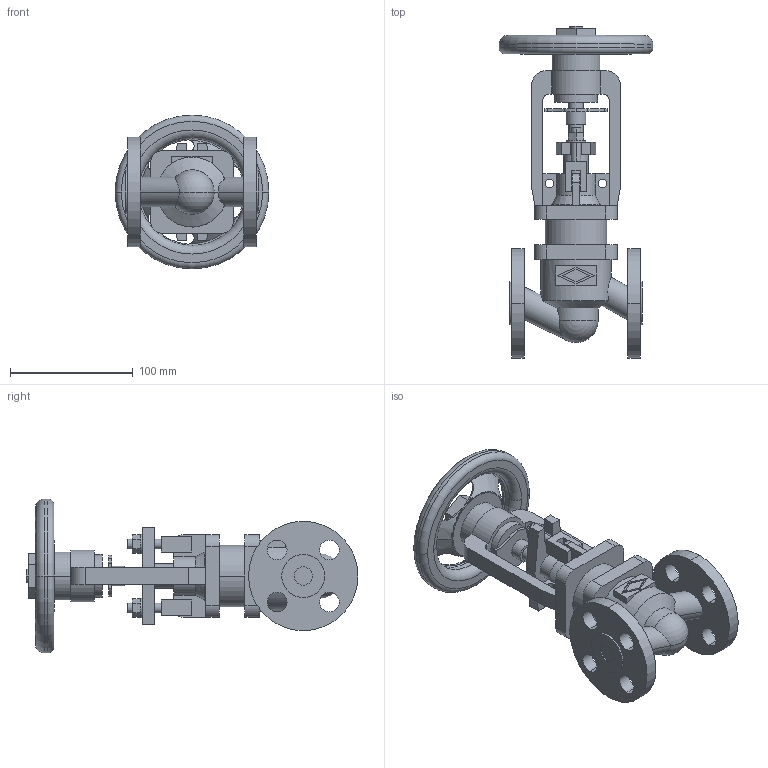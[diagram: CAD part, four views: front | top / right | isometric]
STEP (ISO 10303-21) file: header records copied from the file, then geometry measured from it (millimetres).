
FILE_DESCRIPTION(('OneSpaceDesigner STEP Export'),'2;1');
FILE_NAME('c000004202.stp','2010-04-30T 8:18:43',(''),(''),'OneSpace Designer STEP processor for AP214 (Solid Model)','OneSpace Modeling 15.50B 03-Nov-2007 (C) CoCreate Software GmbH','');
FILE_SCHEMA(('AUTOMOTIVE_DESIGN { 1 0 10303 214 1 1 1 1 }'));
Length unit declared in the file: millimetre
Products named in the file (1): 1
Bounding box: 125 x 270 x 125 mm (x, y, z)
Volume: 657729.1 mm3; surface area: 133422 mm2
Topology: 1 solids, 1 shells, 281 faces, 750 edges, 493 vertices
Faces by surface type: plane 140, cylinder 113, torus 14, cone 12, sphere 2
Entity records: 11081 total; most frequent: CARTESIAN_POINT 2109, ORIENTED_EDGE 1496, DIRECTION 1255, EDGE_CURVE 748, VERTEX_POINT 493, AXIS2_PLACEMENT_3D 419, VECTOR 417, LINE 417
